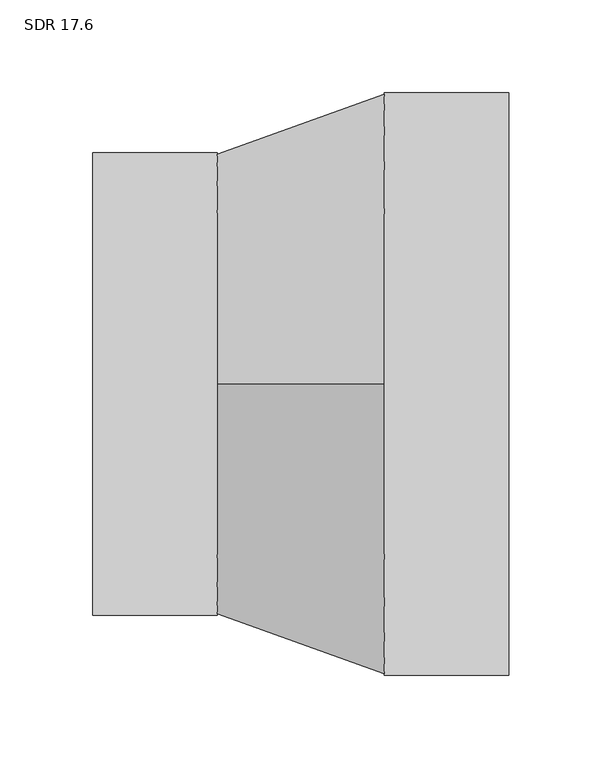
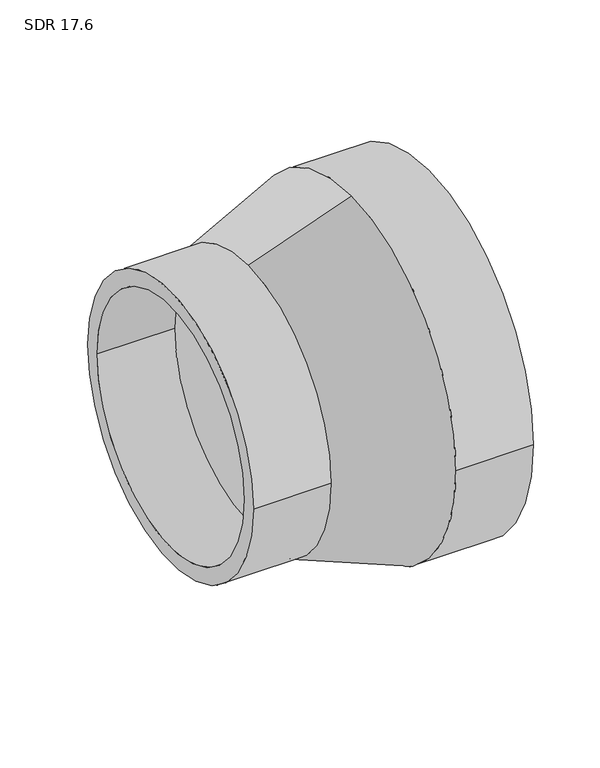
"""IFC4 building model written with IfcOpenShell, lengths in millimetres: pipe fitting geometry, Aquatherm - Reducing Coupling Combined - METRIC : SDR 17.6."""

from ifc_helpers import new_model, si_unit, frame, origin, place, context, project, spatial, polyline, circle_curve, source, transform, mapped, element, save
from ifc_brep_helpers import plane_surface, cylinder_surface, revolved_surface, advanced_brep


def sdr_17_6_4284aec7(model_context):
    return source(origin(), model_context, "Body", "AdvancedBrep", [
        advanced_brep(
        [(-112.522, -124.968, 0.0), (-112.522, 124.968, 0.0), (-112.522, -110.7670909, 0.0), (-112.522, 110.7670909, 0.0), (-45.0088, 110.7670909, 0.0), (-45.0088, 0.0, 110.7670909), (-45.0088, -110.7670909, 0.0), (-45.0088, 0.0, -110.7670909), (-45.0088, 124.968, 0.0), (-45.0088, 0.0, -124.968), (-45.0088, -124.968, 0.0), (-45.0088, 0.0, 124.968), (112.522, -157.48, 0.0), (112.522, 157.48, 0.0), (112.522, -139.5845455, 0.0), (112.522, 139.5845455, 0.0), (45.0088, -157.48, 0.0), (45.0088, 0.0, -157.48), (45.0088, 157.48, 0.0), (45.0088, 0.0, 157.48), (45.0088, -139.5845455, 0.0), (45.0088, 0.0, 139.5845455), (45.0088, 139.5845455, 0.0), (45.0088, 0.0, -139.5845455)],
        [
            (0, 1, circle_curve(frame((-112.522, 0.0, 0.0), z_axis=(-1.0, 0.0, 0.0), x_axis=(0.0, 1.0, 0.0)), 124.968)),
            (1, 0, circle_curve(frame((-112.522, 0.0, 0.0), z_axis=(-1.0, 0.0, 0.0), x_axis=(0.0, 1.0, 0.0)), 124.968)),
            (2, 3, circle_curve(frame((-112.522, 0.0, 0.0), z_axis=(1.0, 0.0, 0.0), x_axis=(0.0, 1.0, 0.0)), 110.7670909)),
            (3, 2, circle_curve(frame((-112.522, 0.0, 0.0), z_axis=(1.0, 0.0, 0.0), x_axis=(0.0, 1.0, 0.0)), 110.7670909)),
            (3, 4),
            (4, 5, circle_curve(frame((-45.0088, 0.0, 0.0), z_axis=(1.0, 0.0, 0.0), x_axis=(0.0, 1.0, 0.0)), 110.7670909)),
            (5, 6, circle_curve(frame((-45.0088, 0.0, 0.0), z_axis=(1.0, 0.0, 0.0), x_axis=(0.0, 1.0, 0.0)), 110.7670909)),
            (6, 2),
            (6, 7, circle_curve(frame((-45.0088, 0.0, 0.0), z_axis=(1.0, 0.0, 0.0), x_axis=(0.0, 1.0, 0.0)), 110.7670909)),
            (7, 4, circle_curve(frame((-45.0088, 0.0, 0.0), z_axis=(1.0, 0.0, 0.0), x_axis=(0.0, 1.0, 0.0)), 110.7670909)),
            (1, 8),
            (8, 9, circle_curve(frame((-45.0088, 0.0, 0.0), z_axis=(-1.0, 0.0, 0.0), x_axis=(0.0, 1.0, 0.0)), 124.968)),
            (9, 10, circle_curve(frame((-45.0088, 0.0, 0.0), z_axis=(-1.0, 0.0, 0.0), x_axis=(0.0, 1.0, 0.0)), 124.968)),
            (10, 0),
            (10, 11, circle_curve(frame((-45.0088, 0.0, 0.0), z_axis=(-1.0, 0.0, 0.0), x_axis=(0.0, 1.0, 0.0)), 124.968)),
            (11, 8, circle_curve(frame((-45.0088, 0.0, 0.0), z_axis=(-1.0, 0.0, 0.0), x_axis=(0.0, 1.0, 0.0)), 124.968)),
            (12, 13, circle_curve(frame((112.522, 0.0, 0.0), z_axis=(1.0, 0.0, 0.0), x_axis=(0.0, 1.0, 0.0)), 157.48)),
            (13, 12, circle_curve(frame((112.522, 0.0, 0.0), z_axis=(1.0, 0.0, 0.0), x_axis=(0.0, 1.0, 0.0)), 157.48)),
            (14, 15, circle_curve(frame((112.522, 0.0, 0.0), z_axis=(-1.0, 0.0, 0.0), x_axis=(0.0, 1.0, 0.0)), 139.5845455)),
            (15, 14, circle_curve(frame((112.522, 0.0, 0.0), z_axis=(-1.0, 0.0, 0.0), x_axis=(0.0, 1.0, 0.0)), 139.5845455)),
            (12, 16),
            (16, 17, circle_curve(frame((45.0088, 0.0, 0.0), z_axis=(1.0, 0.0, 0.0), x_axis=(0.0, 1.0, 0.0)), 157.48)),
            (17, 18, circle_curve(frame((45.0088, 0.0, 0.0), z_axis=(1.0, 0.0, 0.0), x_axis=(0.0, 1.0, 0.0)), 157.48)),
            (18, 13),
            (18, 19, circle_curve(frame((45.0088, 0.0, 0.0), z_axis=(1.0, 0.0, 0.0), x_axis=(0.0, 1.0, 0.0)), 157.48)),
            (19, 16, circle_curve(frame((45.0088, 0.0, 0.0), z_axis=(1.0, 0.0, 0.0), x_axis=(0.0, 1.0, 0.0)), 157.48)),
            (14, 20),
            (20, 21, circle_curve(frame((45.0088, 0.0, 0.0), z_axis=(-1.0, 0.0, 0.0), x_axis=(0.0, 1.0, 0.0)), 139.5845455)),
            (21, 22, circle_curve(frame((45.0088, 0.0, 0.0), z_axis=(-1.0, 0.0, 0.0), x_axis=(0.0, 1.0, 0.0)), 139.5845455)),
            (22, 15),
            (22, 23, circle_curve(frame((45.0088, 0.0, 0.0), z_axis=(-1.0, 0.0, 0.0), x_axis=(0.0, 1.0, 0.0)), 139.5845455)),
            (23, 20, circle_curve(frame((45.0088, 0.0, 0.0), z_axis=(-1.0, 0.0, 0.0), x_axis=(0.0, 1.0, 0.0)), 139.5845455)),
            (11, 19),
            (17, 9),
            (21, 5),
            (7, 23),
        ],
        [
            plane_surface(frame((-112.522, 110.7670909, 0.0), z_axis=(-1.0, 0.0, 0.0), x_axis=(0.0, 0.0, 1.0))),
            revolved_surface(polyline([(-112.522, 110.7670909, 0.0), (-45.008799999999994, 110.7670909, 0.0)]), (-112.522, 0.0, 0.0), (-1.0, 0.0, 0.0)),
            cylinder_surface(frame((0.0, 0.0, 0.0), z_axis=(1.0, 0.0, 0.0), x_axis=(0.0, 1.0, 0.0)), 124.968),
            plane_surface(frame((112.522, 157.48, 0.0), z_axis=(1.0, 0.0, 0.0), x_axis=(0.0, 0.0, 1.0))),
            cylinder_surface(frame((45.0088, 0.0, 0.0), z_axis=(1.0, 0.0, 0.0), x_axis=(0.0, 1.0, 0.0)), 157.48),
            revolved_surface(polyline([(45.0088, 139.5845455, 0.0), (112.522, 139.5845455, 0.0)]), (0.0, 0.0, 0.0), (-1.0, 0.0, 0.0)),
            revolved_surface(polyline([(45.0088, 0.0, 157.48), (-45.0088, 0.0, 124.968)]), (-687.7815384, 0.0, 0.0), (-1.0, 0.0, 0.0)),
            revolved_surface(polyline([(-45.0088, 0.0, 110.7670909), (45.0088, 0.0, 139.5845455)]), (-687.7815384, 0.0, 0.0), (-1.0, 0.0, 0.0)),
        ],
        [
            (0, [[1, 2], [3, 4]]),
            (1, [[-4, 5, 6, 7, 8]]),
            (1, [[-3, -8, 9, 10, -5]]),
            (2, [[-2, 11, 12, 13, 14]]),
            (2, [[-1, -14, 15, 16, -11]]),
            (3, [[17, 18], [19, 20]]),
            (4, [[-17, 21, 22, 23, 24]]),
            (4, [[-18, -24, 25, 26, -21]]),
            (5, [[-19, 27, 28, 29, 30]]),
            (5, [[-20, -30, 31, 32, -27]]),
            (6, [[33, -25, -23, 34, -12, -16]]),
            (6, [[-33, -15, -13, -34, -22, -26]]),
            (7, [[35, -6, -10, 36, -31, -29]]),
            (7, [[-35, -28, -32, -36, -9, -7]]),
        ],
    ),
    ])


if __name__ == "__main__":
    model = new_model("IFC4")
    model_context = context("Model", 3, world=origin())
    ifc_project = project(units=[si_unit("LENGTHUNIT", "METRE", prefix="MILLI")], contexts=[model_context])
    site = spatial("IfcSite", under=ifc_project)
    building = spatial("IfcBuilding", under=site)
    placement = place(None, origin())
    sdr_17_6_shape = sdr_17_6_4284aec7(model_context)
    element("IfcPipeFitting", 1, ObjectType="Aquatherm - Reducing Coupling Combined - METRIC : SDR 17.6", at=placement, inside=building, context=model_context, shape_type="MappedRepresentation", body=[
        mapped(sdr_17_6_shape, transform((0.0, 0.0, 0.0), x_axis=(1.0, 0.0, 0.0), y_axis=(0.0, 1.0, 0.0), z_axis=(0.0, 0.0, 1.0))),
    ])
    save(model, "model.ifc")
